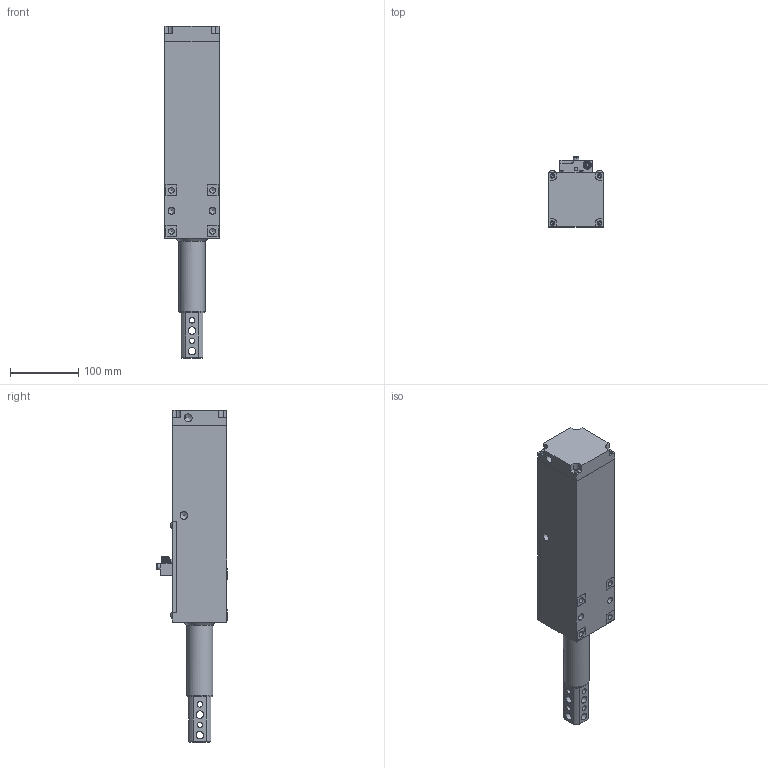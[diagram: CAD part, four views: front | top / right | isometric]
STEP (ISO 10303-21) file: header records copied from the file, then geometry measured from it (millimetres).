
FILE_DESCRIPTION(/* description */ (''),/* implementation_level */ '2;1');
FILE_NAME(/* name */ 'M:\cad\PRODUCT\LSA\LSA - 95\STEP\LSA-95\100mm Stroke\LSA-95 100mm Stroke - Extend.stp',/* time_stamp */ '2018-04-20T08:26:48-04:00',/* author */ ('Tyler'),/* organization */ (''),/* preprocessor_version */ 'ST-DEVELOPER v17',/* originating_system */ 'Autodesk Inventor 2018',/* authorisation */ '');
FILE_SCHEMA (('AUTOMOTIVE_DESIGN { 1 0 10303 214 3 1 1 }'));
Length unit declared in the file: inch
Products named in the file (1): LSA-95 75_100 Stroke - Stripped for STEP_100 Extend
Bounding box: 80.01 x 102.75 x 485.07 mm (x, y, z)
Volume: 1467816.9 mm3; surface area: 255348.7 mm2
Topology: 2 solids, 2 shells, 485 faces, 1350 edges, 904 vertices
Faces by surface type: plane 229, cylinder 167, cone 77, torus 9, sphere 3
Full cylindrical faces by diameter (mm): 1 x8, 1.191 x1, 1.981 x2, 2 x2, 2.383 x2, 2.464 x1, 3.175 x2, 3.264 x6, 3.302 x1, 4.928 x4, 5 x2, 5.3 x4, 5.5 x2, 6.35 x3, 6.5 x4, 8.019 x8, 8.3 x1, 8.382 x4, 8.5 x1, 9.5 x3, 9.652 x2, 10.02 x2, 10.16 x1, 10.312 x1, 10.5 x1, 10.998 x8, 11.455 x5, 11.76 x1, 11.811 x1, 12 x1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
Entity records: 16898 total; most frequent: CARTESIAN_POINT 3422, DIRECTION 2793, ORIENTED_EDGE 2660, EDGE_CURVE 1330, AXIS2_PLACEMENT_3D 1064, VERTEX_POINT 904, LINE 665, VECTOR 665
